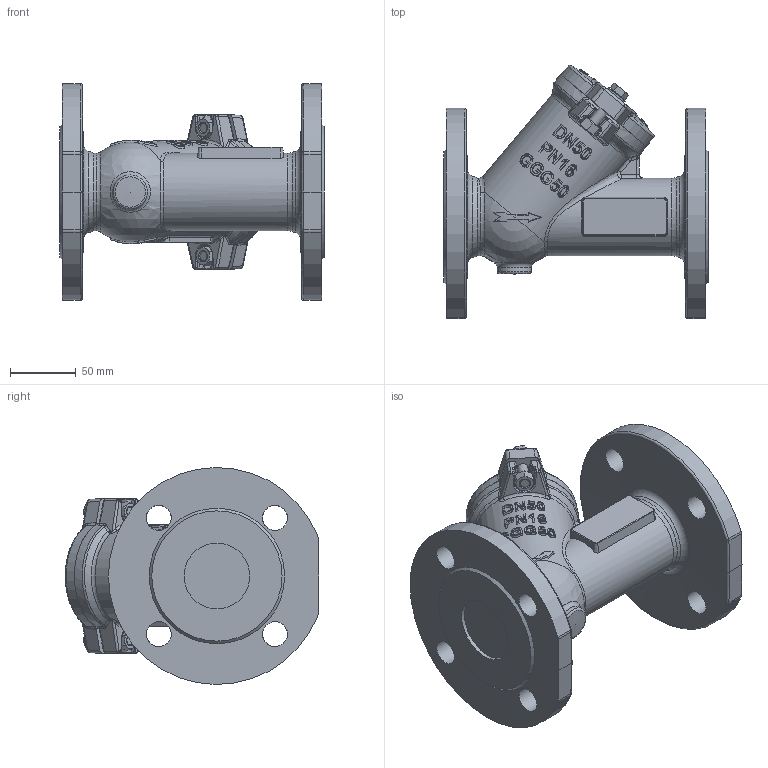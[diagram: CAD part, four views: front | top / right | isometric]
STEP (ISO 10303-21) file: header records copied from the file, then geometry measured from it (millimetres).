
FILE_DESCRIPTION (( 'STEP AP214' ), '1' );
FILE_NAME ('DN50.STEP', '2026-09-14T12:29:36', ( '' ), ( '' ), 'SwSTEP 2.0', 'SolidWorks 2024', '' );
FILE_SCHEMA (( 'AUTOMOTIVE_DESIGN' ));
Length unit declared in the file: millimetre
Products named in the file (1): DN50
Bounding box: 201 x 192.87 x 164.98 mm (x, y, z)
Volume: 1612544 mm3; surface area: 173354.7 mm2
Topology: 4 solids, 6 shells, 831 faces, 2105 edges, 1332 vertices
Faces by surface type: bspline 473, plane 136, cylinder 132, cone 48, sphere 23, torus 19
Full cylindrical faces by diameter (mm): 8 x2, 9 x2, 16 x2, 19 x8, 26 x1, 50 x2, 59 x2, 85.4 x1
Entity records: 51651 total; most frequent: CARTESIAN_POINT 27985, ORIENTED_EDGE 4064, EDGE_CURVE 2032, DIRECTION 1701, VERTEX_POINT 1305, B_SPLINE_CURVE_WITH_KNOTS 1293, EDGE_LOOP 945, FACE_OUTER_BOUND 857
